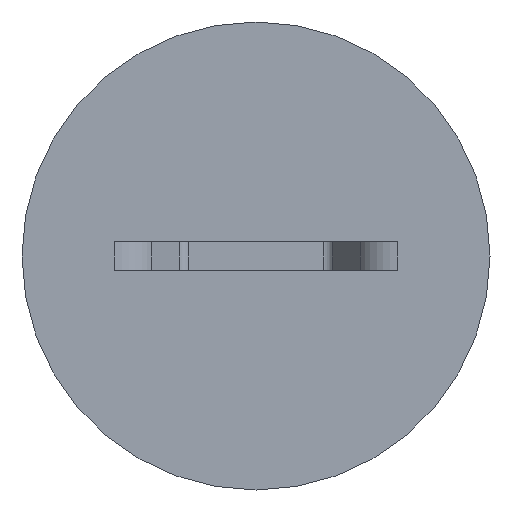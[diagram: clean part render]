
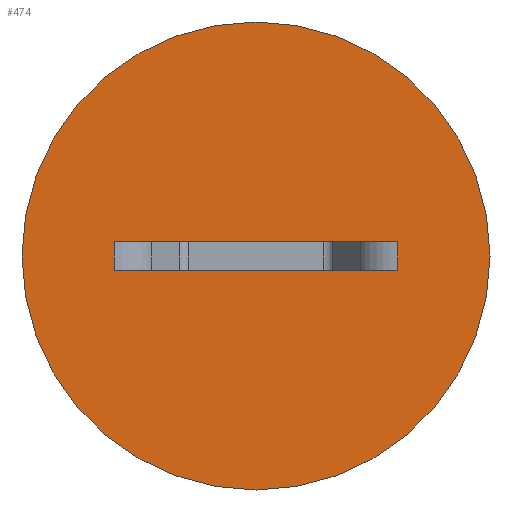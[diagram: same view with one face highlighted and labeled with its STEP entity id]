
A CAD part, front view. The second image highlights one B-rep face of the part: STEP entity #474.
In plain terms, the highlighted planar face has unit normal (0, -1, 0).
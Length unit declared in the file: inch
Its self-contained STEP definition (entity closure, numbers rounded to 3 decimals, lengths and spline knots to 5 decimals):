
#5 = VERTEX_POINT ( 'NONE', #552 ) ;
#10 = AXIS2_PLACEMENT_3D ( 'NONE', #172, #284, #550 ) ;
#28 = CARTESIAN_POINT ( 'NONE',  ( 0.3783, -0.09, 0. ) ) ;
#39 = EDGE_CURVE ( 'NONE', #350, #777, #541, .T. ) ;
#57 = LINE ( 'NONE', #795, #537 ) ;
#111 = FACE_OUTER_BOUND ( 'NONE', #298, .T. ) ;
#147 = EDGE_CURVE ( 'NONE', #5, #603, #440, .T. ) ;
#168 = ORIENTED_EDGE ( 'NONE', *, *, #147, .T. ) ;
#172 = CARTESIAN_POINT ( 'NONE',  ( 0., -0.09, 0.0375 ) ) ;
#195 = DIRECTION ( 'NONE',  ( 0., 0., -1. ) ) ;
#227 = ORIENTED_EDGE ( 'NONE', *, *, #507, .T. ) ;
#228 = CARTESIAN_POINT ( 'NONE',  ( -0.3783, -0.09, 0.075 ) ) ;
#250 = DIRECTION ( 'NONE',  ( 0., 0., -1. ) ) ;
#281 = CARTESIAN_POINT ( 'NONE',  ( 0.3783, -0.09, 0.075 ) ) ;
#284 = DIRECTION ( 'NONE',  ( 0., -1., 0. ) ) ;
#292 = DIRECTION ( 'NONE',  ( 0., 0., 1. ) ) ;
#298 = EDGE_LOOP ( 'NONE', ( #168, #227 ) ) ;
#344 = PLANE ( 'NONE',  #644 ) ;
#350 = VERTEX_POINT ( 'NONE', #714 ) ;
#440 = CIRCLE ( 'NONE', #613, 0.625 ) ;
#455 = CARTESIAN_POINT ( 'NONE',  ( -0.3783, -0.09, 0. ) ) ;
#463 = DIRECTION ( 'NONE',  ( 0., 1., 0. ) ) ;
#469 = DIRECTION ( 'NONE',  ( -1., 0., 0. ) ) ;
#474 = ADVANCED_FACE ( 'NONE', ( #111, #723 ), #344, .F. ) ;
#487 = EDGE_CURVE ( 'NONE', #684, #722, #57, .T. ) ;
#500 = LINE ( 'NONE', #503, #568 ) ;
#503 = CARTESIAN_POINT ( 'NONE',  ( -0.3783, -0.09, 0.075 ) ) ;
#507 = EDGE_CURVE ( 'NONE', #603, #5, #630, .T. ) ;
#515 = ORIENTED_EDGE ( 'NONE', *, *, #558, .T. ) ;
#537 = VECTOR ( 'NONE', #596, 39.37008 ) ;
#541 = LINE ( 'NONE', #228, #770 ) ;
#550 = DIRECTION ( 'NONE',  ( 0., 0., -1. ) ) ;
#552 = CARTESIAN_POINT ( 'NONE',  ( 0., -0.09, -0.5875 ) ) ;
#558 = EDGE_CURVE ( 'NONE', #350, #722, #573, .T. ) ;
#559 = CARTESIAN_POINT ( 'NONE',  ( 0., -0.09, 0.6625 ) ) ;
#563 = DIRECTION ( 'NONE',  ( 0., -1., 0. ) ) ;
#568 = VECTOR ( 'NONE', #628, 39.37008 ) ;
#573 = LINE ( 'NONE', #749, #803 ) ;
#574 = CARTESIAN_POINT ( 'NONE',  ( 0., -0.09, 0.0375 ) ) ;
#596 = DIRECTION ( 'NONE',  ( 1., 0., 0. ) ) ;
#603 = VERTEX_POINT ( 'NONE', #559 ) ;
#612 = EDGE_CURVE ( 'NONE', #777, #684, #500, .T. ) ;
#613 = AXIS2_PLACEMENT_3D ( 'NONE', #574, #563, #195 ) ;
#628 = DIRECTION ( 'NONE',  ( 0., 0., -1. ) ) ;
#630 = CIRCLE ( 'NONE', #10, 0.625 ) ;
#644 = AXIS2_PLACEMENT_3D ( 'NONE', #281, #463, #292 ) ;
#684 = VERTEX_POINT ( 'NONE', #455 ) ;
#708 = CARTESIAN_POINT ( 'NONE',  ( -0.3783, -0.09, 0.075 ) ) ;
#714 = CARTESIAN_POINT ( 'NONE',  ( 0.3783, -0.09, 0.075 ) ) ;
#716 = ORIENTED_EDGE ( 'NONE', *, *, #39, .F. ) ;
#722 = VERTEX_POINT ( 'NONE', #28 ) ;
#723 = FACE_BOUND ( 'NONE', #731, .T. ) ;
#731 = EDGE_LOOP ( 'NONE', ( #716, #515, #769, #735 ) ) ;
#735 = ORIENTED_EDGE ( 'NONE', *, *, #612, .F. ) ;
#749 = CARTESIAN_POINT ( 'NONE',  ( 0.3783, -0.09, 0.075 ) ) ;
#769 = ORIENTED_EDGE ( 'NONE', *, *, #487, .F. ) ;
#770 = VECTOR ( 'NONE', #469, 39.37008 ) ;
#777 = VERTEX_POINT ( 'NONE', #708 ) ;
#795 = CARTESIAN_POINT ( 'NONE',  ( -0.3783, -0.09, 0. ) ) ;
#803 = VECTOR ( 'NONE', #250, 39.37008 ) ;
